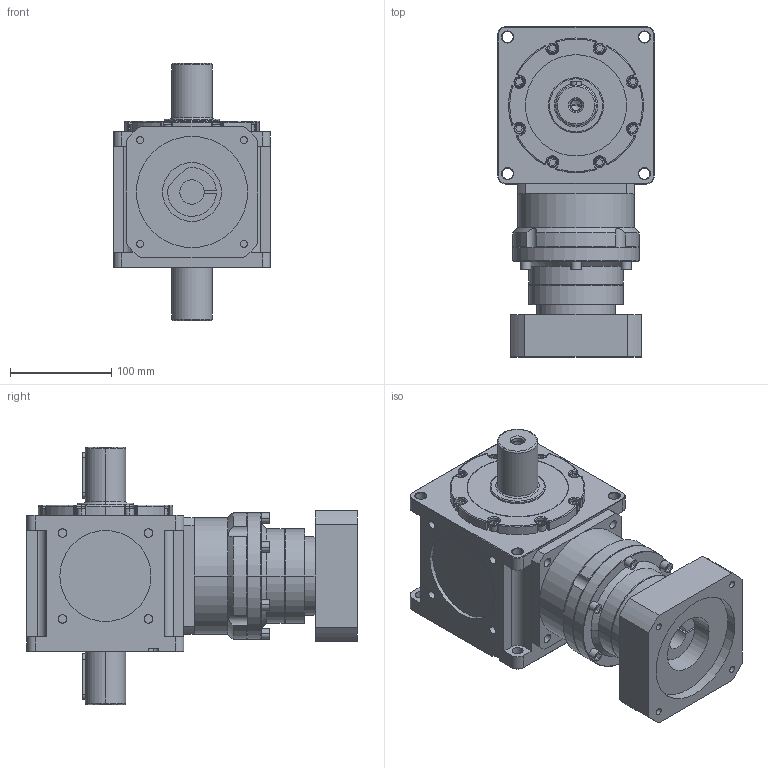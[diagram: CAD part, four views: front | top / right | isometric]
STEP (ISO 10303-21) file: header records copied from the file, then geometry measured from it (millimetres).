
FILE_DESCRIPTION (( 'STEP AP214' ), '1' );
FILE_NAME ('CCW155A-L2(24-200)-2P 24-110-145-M8.STEP', '2025-06-04T00:55:19', ( '微软用户' ), ( '微软中国' ), 'SwSTEP 2.0', 'SolidWorks 2024', '' );
FILE_SCHEMA (( 'AUTOMOTIVE_DESIGN' ));
Length unit declared in the file: millimetre
Products named in the file (3): CCW155A-L2(24-200)-2P 24-110-145-M8; CCW155A-002-2P箱体; VRB-115-L2-S2-P1 24-110-145-M8
Assembly tree (2 placements, depth 2):
  CCW155A-L2(24-200)-2P 24-110-145-M8
    CCW155A-002-2P箱体
    VRB-115-L2-S2-P1 24-110-145-M8
Bounding box: 155 x 326 x 254 mm (x, y, z)
Volume: 5069400.7 mm3; surface area: 321136.3 mm2
Topology: 2 solids, 2 shells, 623 faces, 1478 edges, 908 vertices
Faces by surface type: plane 248, cylinder 245, cone 57, torus 57, sphere 16
Entity records: 18296 total; most frequent: CARTESIAN_POINT 3375, DIRECTION 3366, ORIENTED_EDGE 2912, EDGE_CURVE 1456, AXIS2_PLACEMENT_3D 1305, VERTEX_POINT 908, LINE 756, VECTOR 756
